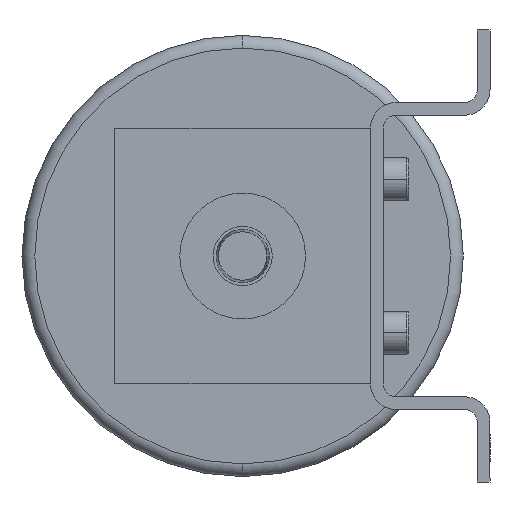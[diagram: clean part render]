
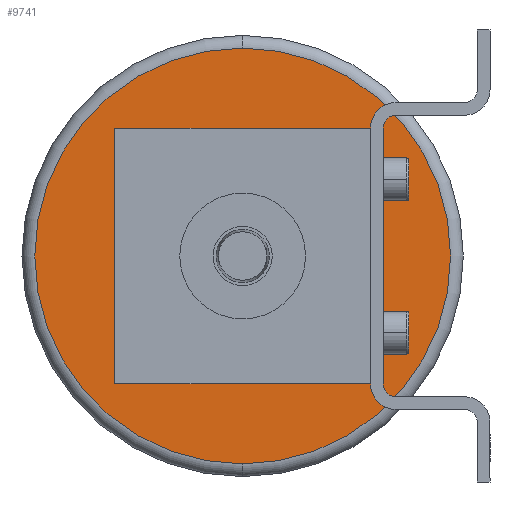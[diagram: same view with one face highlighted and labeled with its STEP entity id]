
A CAD part, left-side view. The second image highlights one B-rep face of the part: STEP entity #9741.
In plain terms, the highlighted planar face has unit normal (-1, 0, 0).
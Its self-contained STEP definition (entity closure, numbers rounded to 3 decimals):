
#123=CARTESIAN_POINT('',(-67.5,0.0,48.75));
#124=VERTEX_POINT('',#123);
#134=CARTESIAN_POINT('',(-67.5,-48.75,0.0));
#135=VERTEX_POINT('',#134);
#136=CARTESIAN_POINT('',(-67.5,0.0,0.0));
#137=DIRECTION('',(-1.0,0.0,0.0));
#138=DIRECTION('',(0.0,-1.0,0.0));
#139=AXIS2_PLACEMENT_3D('',#136,#137,#138);
#140=CIRCLE('',#139,48.75);
#141=EDGE_CURVE('',#135,#124,#140,.T.);
#143=CARTESIAN_POINT('',(-67.5,0.,-48.75));
#144=VERTEX_POINT('',#143);
#145=CARTESIAN_POINT('',(-67.5,0.0,0.0));
#146=DIRECTION('',(-1.0,0.0,0.0));
#147=DIRECTION('',(0.0,-1.0,0.0));
#148=AXIS2_PLACEMENT_3D('',#145,#146,#147);
#149=CIRCLE('',#148,48.75);
#150=EDGE_CURVE('',#144,#135,#149,.T.);
#9216=CARTESIAN_POINT('',(-67.5,30.0,30.));
#9217=VERTEX_POINT('',#9216);
#9224=CARTESIAN_POINT('',(-67.5,30.0,-30.));
#9225=VERTEX_POINT('',#9224);
#9226=CARTESIAN_POINT('',(-67.5,30.0,-30.));
#9227=DIRECTION('',(0.0,0.0,1.0));
#9228=VECTOR('',#9227,60.0);
#9229=LINE('',#9226,#9228);
#9230=EDGE_CURVE('',#9225,#9217,#9229,.T.);
#9361=CARTESIAN_POINT('',(-67.5,-30.,30.0));
#9362=VERTEX_POINT('',#9361);
#9369=CARTESIAN_POINT('',(-67.5,30.0,30.));
#9370=DIRECTION('',(0.0,-1.0,0.0));
#9371=VECTOR('',#9370,60.);
#9372=LINE('',#9369,#9371);
#9373=EDGE_CURVE('',#9217,#9362,#9372,.T.);
#9444=CARTESIAN_POINT('',(-67.5,-30.,-30.));
#9445=VERTEX_POINT('',#9444);
#9452=CARTESIAN_POINT('',(-67.5,-30.,30.0));
#9453=DIRECTION('',(0.0,0.0,-1.0));
#9454=VECTOR('',#9453,60.0);
#9455=LINE('',#9452,#9454);
#9456=EDGE_CURVE('',#9362,#9445,#9455,.T.);
#9498=CARTESIAN_POINT('',(-67.5,-30.,-30.));
#9499=DIRECTION('',(0.0,1.0,0.0));
#9500=VECTOR('',#9499,60.);
#9501=LINE('',#9498,#9500);
#9502=EDGE_CURVE('',#9445,#9225,#9501,.T.);
#9715=CARTESIAN_POINT('',(-67.5,0.0,0.0));
#9716=DIRECTION('',(-1.0,0.0,0.0));
#9717=DIRECTION('',(0.0,-1.0,0.0));
#9718=AXIS2_PLACEMENT_3D('',#9715,#9716,#9717);
#9719=CIRCLE('',#9718,48.75);
#9720=EDGE_CURVE('',#124,#144,#9719,.T.);
#9725=CARTESIAN_POINT('',(-67.5,-24.375,0.0));
#9726=DIRECTION('',(-1.0,0.0,0.0));
#9727=DIRECTION('',(0.0,0.0,1.0));
#9728=AXIS2_PLACEMENT_3D('',#9725,#9726,#9727);
#9729=PLANE('',#9728);
#9730=ORIENTED_EDGE('',*,*,#141,.T.);
#9731=ORIENTED_EDGE('',*,*,#9720,.T.);
#9732=ORIENTED_EDGE('',*,*,#150,.T.);
#9733=EDGE_LOOP('',(#9730,#9731,#9732));
#9734=FACE_OUTER_BOUND('',#9733,.T.);
#9735=ORIENTED_EDGE('',*,*,#9230,.T.);
#9736=ORIENTED_EDGE('',*,*,#9373,.T.);
#9737=ORIENTED_EDGE('',*,*,#9456,.T.);
#9738=ORIENTED_EDGE('',*,*,#9502,.T.);
#9739=EDGE_LOOP('',(#9735,#9736,#9737,#9738));
#9740=FACE_BOUND('',#9739,.T.);
#9741=ADVANCED_FACE('',(#9734,#9740),#9729,.T.);
